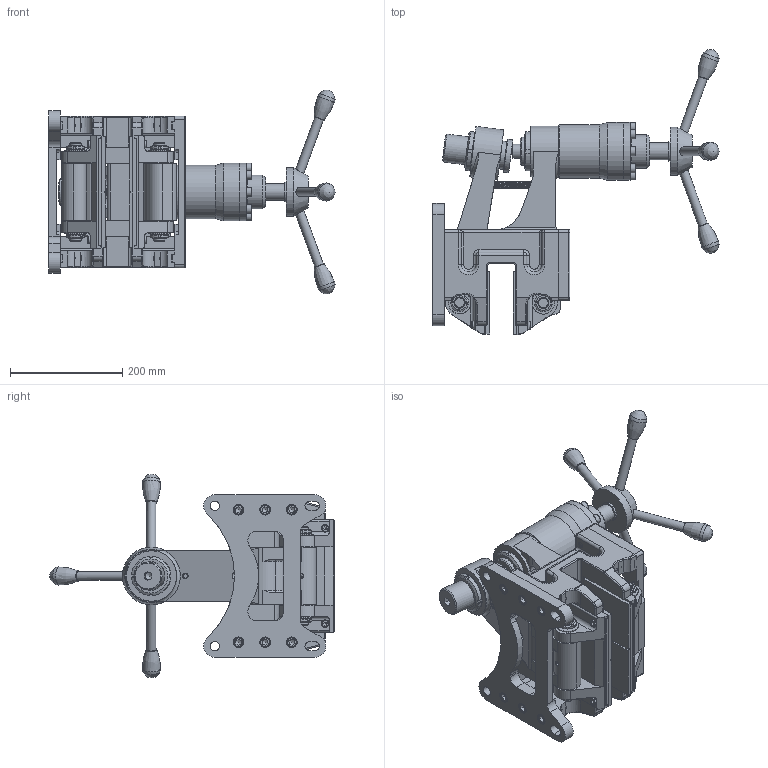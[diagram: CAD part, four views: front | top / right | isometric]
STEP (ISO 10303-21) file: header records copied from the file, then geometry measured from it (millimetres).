
FILE_DESCRIPTION(/* description */ ('','CAx-IF Rec.Pracs.---Representation and Presentation of Product Manufacturing Information (PMI)---4.0---2014-10-13'),/* implementation_level */ '2;1');
FILE_NAME(/* name */ 'X:\INVENTOR\DISEGNI\19_Pinze\STEP x Sito\MANUALI\19_16_600_06 PMTP600_40.stp',/* time_stamp */ '2018-10-26T11:04:40+02:00',/* author */ ('stefano'),/* organization */ (''),/* preprocessor_version */ 'ST-DEVELOPER v17',/* originating_system */ 'Autodesk Inventor 2018',/* authorisation */ '');
FILE_SCHEMA (('AP242_MANAGED_MODEL_BASED_3D_ENGINEERING_MIM_LF { 1 0 10303 442 1 1 4 }'));
Products named in the file (1): 19_16_600_06 PMTP600_40_Substitute_2
Bounding box: 509.6 x 507.43 x 362.87 mm (x, y, z)
Volume: 9163412.8 mm3; surface area: 1000518.4 mm2
Topology: 1 solids, 1 shells, 1516 faces, 4139 edges, 2688 vertices
Faces by surface type: plane 744, cylinder 433, torus 157, cone 120, bspline 46, sphere 16
Full cylindrical faces by diameter (mm): 1.8 x2, 2.5 x2, 3 x1, 5.188 x1, 6.647 x2, 7.4 x2, 7.5 x2, 8 x6, 8.376 x1, 8.5 x8, 8.917 x2, 9 x2, 9.188 x1, 10 x2, 10.106 x12, 10.5 x5, 12 x12, 12.5 x12, 13 x6, 13.5 x8, 14 x1, 16 x12, 16.5 x4, 17 x2, 18 x13, 19 x12, 20 x12, 22 x6, 25 x4, 30 x1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
Entity records: 57435 total; most frequent: CARTESIAN_POINT 17483, ORIENTED_EDGE 8170, DIRECTION 8162, EDGE_CURVE 4085, AXIS2_PLACEMENT_3D 3087, VERTEX_POINT 2688, LINE 1988, VECTOR 1988
